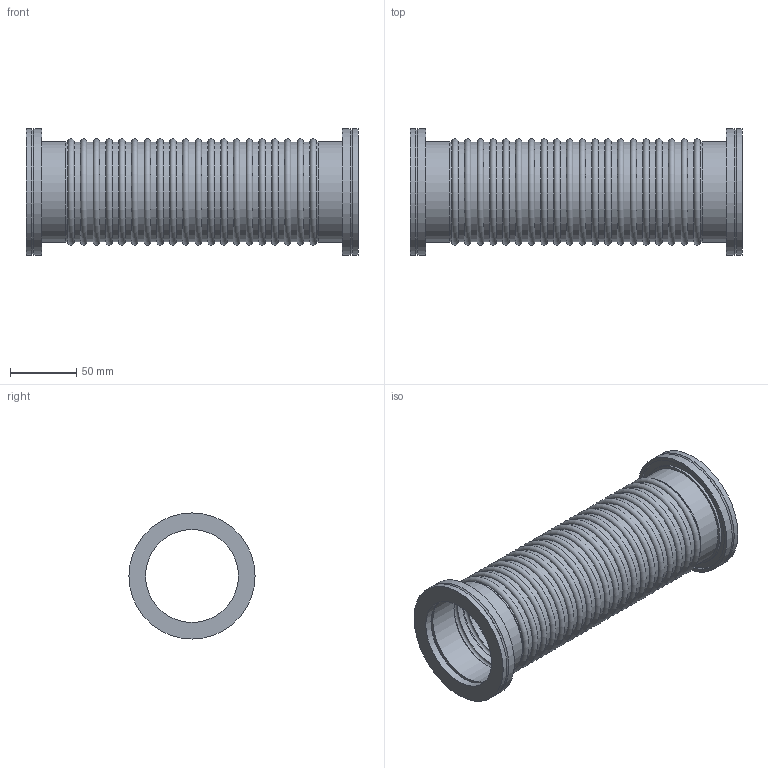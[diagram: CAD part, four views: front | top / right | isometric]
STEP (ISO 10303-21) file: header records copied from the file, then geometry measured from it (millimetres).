
FILE_DESCRIPTION( ( 'Unknown' ), '1' );
FILE_NAME( 'X:/Daten ( aktueller Bestand )/Projekte und Zeichnungen/Solid Edge/STP-Dateien/ISO-K Teile und Zubehör/69014.stp', 'Unknown', ( 'Unknown' ), ( 'Unknown' ), 'PSStep 14.0', 'Unknown', ' ' );
FILE_SCHEMA( ( 'AUTOMOTIVE_DESIGN { 1 0 10303 214 1 1 1 1 }' ) );
Length unit declared in the file: millimetre
Products named in the file (8): 6511; 6521-1; Assem1; 6901-1
Assembly tree (8 placements, depth 4):
  Assem1
    6901-1
      6901-1
    Assem1  x2
      6521-1
        6521-1
      6511
        6511
Bounding box: 250 x 95 x 95 mm (x, y, z)
Volume: 124838.3 mm3; surface area: 171837 mm2
Topology: 5 solids, 5 shells, 118 faces, 241 edges, 139 vertices
Faces by surface type: cylinder 58, torus 42, plane 16, cone 2
Full cylindrical faces by diameter (mm): 70 x4, 74.2 x21, 75.2 x21, 76 x2, 76.5 x2, 80 x2, 90 x2, 95 x4
Entity records: 3018 total; most frequent: DIRECTION 430, CARTESIAN_POINT 316, AXIS2_PLACEMENT_3D 215, EDGE_LOOP 202, ORIENTED_EDGE 202, FACE_OUTER_BOUND 192, STYLED_ITEM 101, PRESENTATION_STYLE_ASSIGNMENT 101
